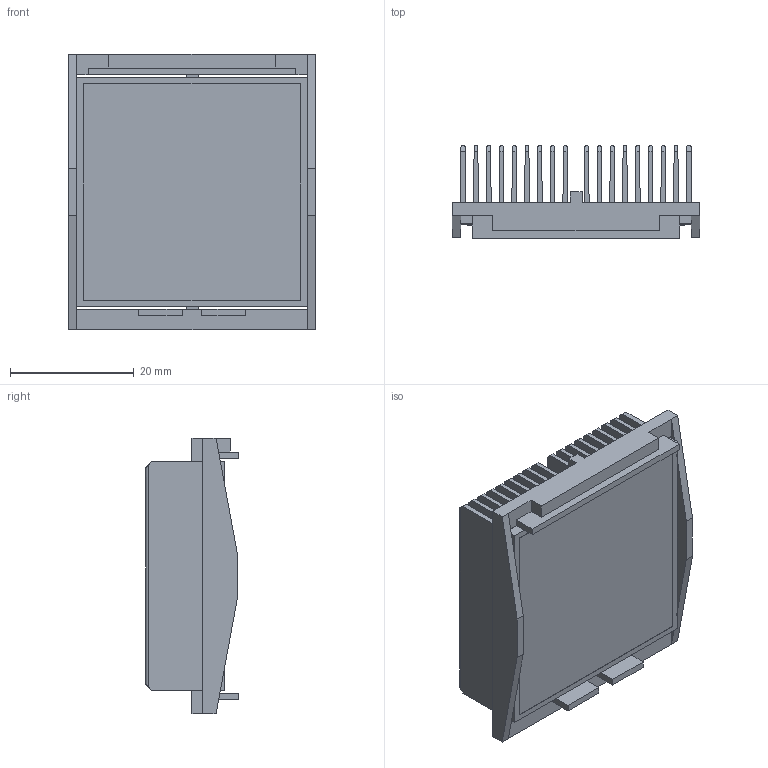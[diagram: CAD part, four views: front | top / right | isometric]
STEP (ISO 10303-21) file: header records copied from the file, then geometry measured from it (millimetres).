
FILE_DESCRIPTION (( 'STEP AP214' ), '1' );
FILE_NAME ('INL37.5001-13-1.7Y.STEP', '2023-03-01T15:46:24', ( '' ), ( '' ), 'SwSTEP 2.0', 'SolidWorks 2020', '' );
FILE_SCHEMA (( 'AUTOMOTIVE_DESIGN' ));
Length unit declared in the file: millimetre
Products named in the file (1): INL37.5001-13-1.7Y
Bounding box: 40.1 x 15 x 44.6 mm (x, y, z)
Volume: 9299.2 mm3; surface area: 22455.5 mm2
Topology: 3 solids, 3 shells, 198 faces, 578 edges, 384 vertices
Faces by surface type: plane 146, cylinder 52
Entity records: 8712 total; most frequent: CARTESIAN_POINT 1269, ORIENTED_EDGE 1156, DIRECTION 1008, EDGE_CURVE 578, VECTOR 474, LINE 474, VERTEX_POINT 384, AXIS2_PLACEMENT_3D 267
